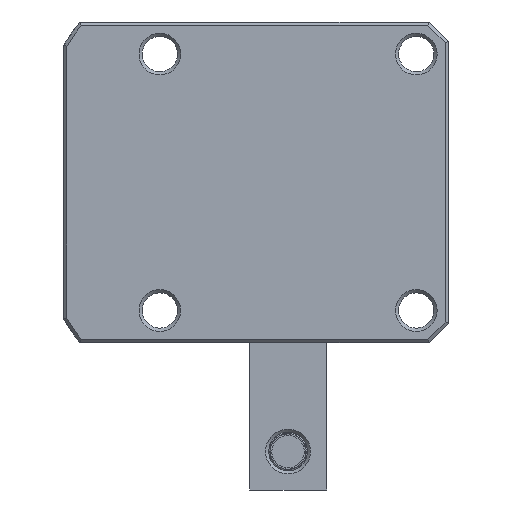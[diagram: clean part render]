
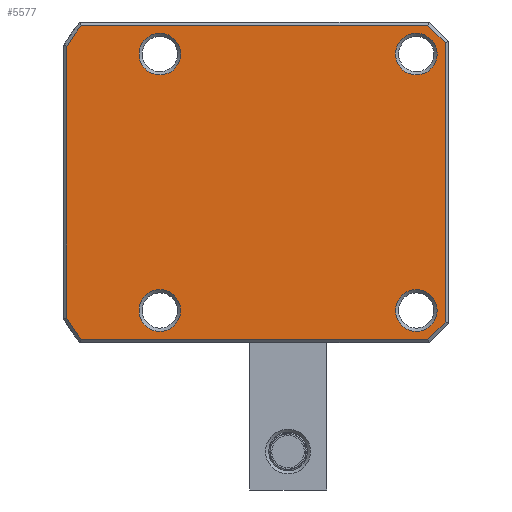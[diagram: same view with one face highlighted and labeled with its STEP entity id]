
A CAD part, front view. The second image highlights one B-rep face of the part: STEP entity #5577.
In plain terms, the highlighted planar face has unit normal (0, -1, 0).
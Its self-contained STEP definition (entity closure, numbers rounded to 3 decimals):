
#305=FACE_BOUND('',#845,.T.);
#306=FACE_BOUND('',#846,.T.);
#307=FACE_BOUND('',#847,.T.);
#308=FACE_BOUND('',#848,.T.);
#361=PLANE('',#6228);
#503=FACE_OUTER_BOUND('',#844,.T.);
#844=EDGE_LOOP('',(#4000,#4001,#4002,#4003,#4004,#4005,#4006,#4007));
#845=EDGE_LOOP('',(#4008));
#846=EDGE_LOOP('',(#4009));
#847=EDGE_LOOP('',(#4010));
#848=EDGE_LOOP('',(#4011));
#1216=LINE('',#9147,#1618);
#1255=LINE('',#9259,#1657);
#1256=LINE('',#9263,#1658);
#1257=LINE('',#9267,#1659);
#1258=LINE('',#9270,#1660);
#1259=LINE('',#9271,#1661);
#1618=VECTOR('',#7081,1000.);
#1657=VECTOR('',#7160,1000.);
#1658=VECTOR('',#7163,1000.);
#1659=VECTOR('',#7166,1000.);
#1660=VECTOR('',#7169,1000.);
#1661=VECTOR('',#7170,1000.);
#1990=CIRCLE('',#6155,3.25);
#1993=CIRCLE('',#6159,3.25);
#1994=CIRCLE('',#6161,3.25);
#1997=CIRCLE('',#6165,3.25);
#2024=CIRCLE('',#6229,40.5);
#2025=CIRCLE('',#6230,40.5);
#2379=VERTEX_POINT('',#8847);
#2382=VERTEX_POINT('',#8855);
#2383=VERTEX_POINT('',#8859);
#2386=VERTEX_POINT('',#8867);
#2436=VERTEX_POINT('',#9144);
#2437=VERTEX_POINT('',#9146);
#2466=VERTEX_POINT('',#9257);
#2467=VERTEX_POINT('',#9261);
#2468=VERTEX_POINT('',#9262);
#2469=VERTEX_POINT('',#9264);
#2470=VERTEX_POINT('',#9266);
#2471=VERTEX_POINT('',#9269);
#2932=EDGE_CURVE('',#2379,#2379,#1990,.T.);
#2936=EDGE_CURVE('',#2382,#2382,#1993,.T.);
#2938=EDGE_CURVE('',#2383,#2383,#1994,.T.);
#2942=EDGE_CURVE('',#2386,#2386,#1997,.T.);
#3011=EDGE_CURVE('',#2437,#2436,#1216,.T.);
#3057=EDGE_CURVE('',#2436,#2466,#1255,.T.);
#3058=EDGE_CURVE('',#2467,#2468,#1256,.T.);
#3059=EDGE_CURVE('',#2469,#2467,#2024,.T.);
#3060=EDGE_CURVE('',#2470,#2469,#1257,.T.);
#3061=EDGE_CURVE('',#2437,#2470,#2025,.T.);
#3062=EDGE_CURVE('',#2471,#2466,#1258,.T.);
#3063=EDGE_CURVE('',#2468,#2471,#1259,.T.);
#4000=ORIENTED_EDGE('',*,*,#3058,.F.);
#4001=ORIENTED_EDGE('',*,*,#3059,.F.);
#4002=ORIENTED_EDGE('',*,*,#3060,.F.);
#4003=ORIENTED_EDGE('',*,*,#3061,.F.);
#4004=ORIENTED_EDGE('',*,*,#3011,.T.);
#4005=ORIENTED_EDGE('',*,*,#3057,.T.);
#4006=ORIENTED_EDGE('',*,*,#3062,.F.);
#4007=ORIENTED_EDGE('',*,*,#3063,.F.);
#4008=ORIENTED_EDGE('',*,*,#2932,.F.);
#4009=ORIENTED_EDGE('',*,*,#2936,.F.);
#4010=ORIENTED_EDGE('',*,*,#2938,.F.);
#4011=ORIENTED_EDGE('',*,*,#2942,.F.);
#5577=ADVANCED_FACE('',(#503,#305,#306,#307,#308),#361,.F.);
#6155=AXIS2_PLACEMENT_3D('',#8849,#6935,#6936);
#6159=AXIS2_PLACEMENT_3D('',#8857,#6944,#6945);
#6161=AXIS2_PLACEMENT_3D('',#8861,#6949,#6950);
#6165=AXIS2_PLACEMENT_3D('',#8869,#6958,#6959);
#6228=AXIS2_PLACEMENT_3D('',#9260,#7161,#7162);
#6229=AXIS2_PLACEMENT_3D('',#9265,#7164,#7165);
#6230=AXIS2_PLACEMENT_3D('',#9268,#7167,#7168);
#6935=DIRECTION('center_axis',(0.,-1.,0.));
#6936=DIRECTION('ref_axis',(1.,0.,0.));
#6944=DIRECTION('center_axis',(0.,-1.,0.));
#6945=DIRECTION('ref_axis',(0.,0.,
-1.));
#6949=DIRECTION('center_axis',(0.,-1.,0.));
#6950=DIRECTION('ref_axis',(0.,0.,
-1.));
#6958=DIRECTION('center_axis',(0.,-1.,0.));
#6959=DIRECTION('ref_axis',(1.,0.,0.));
#7081=DIRECTION('',(1.,0.,0.));
#7160=DIRECTION('',(0.707,0.,0.707));
#7161=DIRECTION('center_axis',(0.,1.,0.));
#7162=DIRECTION('ref_axis',(0.,0.,1.));
#7163=DIRECTION('',(1.,0.,0.));
#7164=DIRECTION('center_axis',(0.,1.,0.));
#7165=DIRECTION('ref_axis',(-1.,0.,0.));
#7166=DIRECTION('',(0.,0.,1.));
#7167=DIRECTION('center_axis',(0.,1.,0.));
#7168=DIRECTION('ref_axis',(0.,0.,1.));
#7169=DIRECTION('',(0.,0.,-1.));
#7170=DIRECTION('',(0.707,0.,-0.707));
#8847=CARTESIAN_POINT('',(408.583,54.859,20.));
#8849=CARTESIAN_POINT('Origin',(411.833,54.859,20.));
#8855=CARTESIAN_POINT('',(451.833,54.859,23.25));
#8857=CARTESIAN_POINT('Origin',(451.833,54.859,20.));
#8859=CARTESIAN_POINT('',(451.833,54.859,-16.75));
#8861=CARTESIAN_POINT('Origin',(451.833,54.859,-20.));
#8867=CARTESIAN_POINT('',(408.583,54.859,-20.));
#8869=CARTESIAN_POINT('Origin',(411.833,54.859,-20.));
#9144=CARTESIAN_POINT('',(453.626,54.859,-24.5));
#9146=CARTESIAN_POINT('',(399.584,54.859,-24.5));
#9147=CARTESIAN_POINT('',(399.01,54.859,-24.5));
#9257=CARTESIAN_POINT('',(456.333,54.859,-21.793));
#9259=CARTESIAN_POINT('',(453.626,54.859,-24.5));
#9260=CARTESIAN_POINT('Origin',(456.333,54.859,-24.5));
#9261=CARTESIAN_POINT('',(399.584,54.859,24.5));
#9262=CARTESIAN_POINT('',(453.626,54.859,24.5));
#9263=CARTESIAN_POINT('',(456.333,54.859,24.5));
#9264=CARTESIAN_POINT('',(397.333,54.859,21.213));
#9265=CARTESIAN_POINT('Origin',(431.833,54.859,0.));
#9266=CARTESIAN_POINT('',(397.333,54.859,-21.213));
#9267=CARTESIAN_POINT('',(397.333,54.859,-24.5));
#9268=CARTESIAN_POINT('Origin',(431.833,54.859,0.));
#9269=CARTESIAN_POINT('',(456.333,54.859,21.793));
#9270=CARTESIAN_POINT('',(456.333,54.859,-24.5));
#9271=CARTESIAN_POINT('',(453.626,54.859,24.5));
